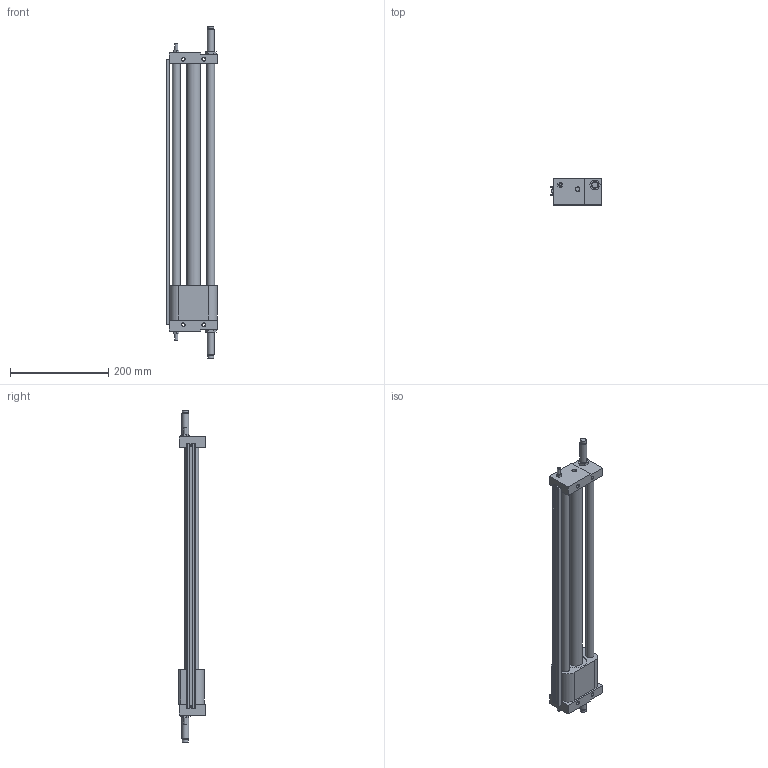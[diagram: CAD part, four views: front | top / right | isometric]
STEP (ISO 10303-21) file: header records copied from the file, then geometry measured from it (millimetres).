
FILE_DESCRIPTION( ( 'STEP AP214' ), '1' );
FILE_NAME( 'C:/Users/EMC02301/Desktop/111/ESWT25X450-S-B.stp', '2026-07-29T05:25:31', ( 'License CC BY-ND 4.0' ), ( 'CADENAS' ), ' ', 'PARTsolutions', ' ' );
FILE_SCHEMA( ( 'AUTOMOTIVE_DESIGN { 1 0 10303 214 1 1 1 1 }' ) );
Length unit declared in the file: millimetre
Products named in the file (4): ESWT25X450-S-B()(0); _ESWT25X450-S-B(0)()_dummy; _ESWT25X450-S-B(0)()_ROD; _ESWT25X450(0)()_BODY
Assembly tree (3 placements, depth 2):
  ESWT25X450-S-B()(0)
    _ESWT25X450-S-B(0)()_dummy
    _ESWT25X450-S-B(0)()_ROD
    _ESWT25X450(0)()_BODY
Bounding box: 105.5 x 54 x 675.4 mm (x, y, z)
Volume: 1038221.3 mm3; surface area: 218557.4 mm2
Topology: 2 solids, 5 shells, 197 faces, 427 edges, 278 vertices
Faces by surface type: plane 113, cylinder 49, cone 33, torus 2
Full cylindrical faces by diameter (mm): 3.5 x2, 4 x2, 4.134 x4, 4.917 x4, 5.8 x2, 6 x4, 6.647 x4, 7 x4, 8.566 x2, 9.6 x2, 11 x4, 11.8 x2, 14 x2, 16 x4, 27.8 x2, 45 x2
Entity records: 6499 total; most frequent: DIRECTION 867, CARTESIAN_POINT 795, ORIENTED_EDGE 662, EDGE_LOOP 337, AXIS2_PLACEMENT_3D 335, EDGE_CURVE 331, VERTEX_POINT 262, FACE_OUTER_BOUND 245
